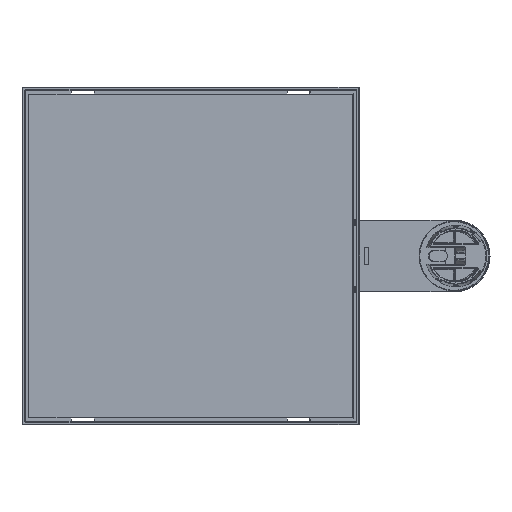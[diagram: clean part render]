
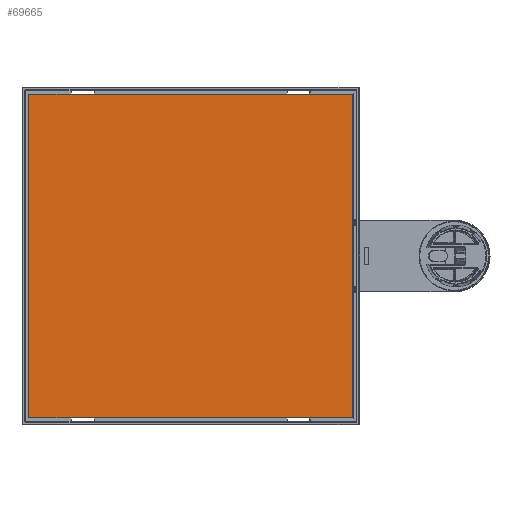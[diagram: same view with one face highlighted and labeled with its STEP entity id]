
A CAD part, front view. The second image highlights one B-rep face of the part: STEP entity #69665.
In plain terms, the highlighted planar face has unit normal (0, -1, 0).
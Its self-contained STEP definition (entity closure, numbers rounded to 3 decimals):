
#67754=DIRECTION('',(-1.,0.,0.));
#67755=VECTOR('',#67754,270.6);
#67756=CARTESIAN_POINT('',(135.3,1.,-135.3));
#67757=LINE('',#67756,#67755);
#67758=DIRECTION('',(0.,0.,1.));
#67759=VECTOR('',#67758,270.6);
#67760=CARTESIAN_POINT('',(-135.3,1.,-135.3));
#67761=LINE('',#67760,#67759);
#67762=DIRECTION('',(1.,0.,0.));
#67763=VECTOR('',#67762,270.6);
#67764=CARTESIAN_POINT('',(-135.3,1.,135.3));
#67765=LINE('',#67764,#67763);
#67766=DIRECTION('',(0.,0.,1.));
#67767=VECTOR('',#67766,270.6);
#67768=CARTESIAN_POINT('',(135.3,1.,-135.3));
#67769=LINE('',#67768,#67767);
#69634=CARTESIAN_POINT('',(-135.3,1.,-135.3));
#69635=CARTESIAN_POINT('',(135.3,1.,-135.3));
#69636=VERTEX_POINT('',#69634);
#69637=VERTEX_POINT('',#69635);
#69638=CARTESIAN_POINT('',(135.3,1.,135.3));
#69639=VERTEX_POINT('',#69638);
#69644=CARTESIAN_POINT('',(-135.3,1.,135.3));
#69645=VERTEX_POINT('',#69644);
#69650=CARTESIAN_POINT('',(0.,1.,0.));
#69651=DIRECTION('',(0.,1.,0.));
#69652=DIRECTION('',(1.,0.,0.));
#69653=AXIS2_PLACEMENT_3D('',#69650,#69651,#69652);
#69654=PLANE('',#69653);
#69656=ORIENTED_EDGE('',*,*,#69655,.T.);
#69658=ORIENTED_EDGE('',*,*,#69657,.T.);
#69660=ORIENTED_EDGE('',*,*,#69659,.T.);
#69662=ORIENTED_EDGE('',*,*,#69661,.F.);
#69663=EDGE_LOOP('',(#69656,#69658,#69660,#69662));
#69664=FACE_OUTER_BOUND('',#69663,.F.);
#69665=ADVANCED_FACE('',(#69664),#69654,.F.);
#69655=EDGE_CURVE('',#69637,#69636,#67757,.T.);
#69657=EDGE_CURVE('',#69636,#69645,#67761,.T.);
#69659=EDGE_CURVE('',#69645,#69639,#67765,.T.);
#69661=EDGE_CURVE('',#69637,#69639,#67769,.T.);
